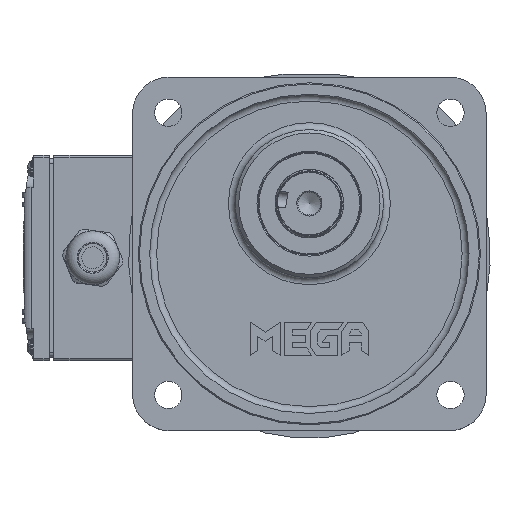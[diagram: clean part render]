
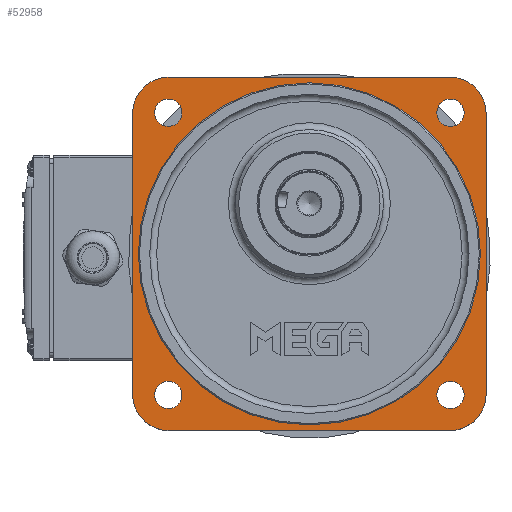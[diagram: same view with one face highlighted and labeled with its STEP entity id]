
A CAD part, top view. The second image highlights one B-rep face of the part: STEP entity #52958.
In plain terms, the highlighted planar face has unit normal (0, 0, 1).
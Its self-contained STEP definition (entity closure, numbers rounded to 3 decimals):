
#1264=FACE_BOUND('',#6904,.T.);
#1265=FACE_BOUND('',#6905,.T.);
#1266=FACE_BOUND('',#6906,.T.);
#1267=FACE_BOUND('',#6907,.T.);
#1268=FACE_BOUND('',#6908,.T.);
#2197=PLANE('',#57024);
#3628=FACE_OUTER_BOUND('',#6903,.T.);
#6903=EDGE_LOOP('',(#37367,#37368,#37369,#37370,#37371,#37372,#37373,#37374));
#6904=EDGE_LOOP('',(#37375));
#6905=EDGE_LOOP('',(#37376));
#6906=EDGE_LOOP('',(#37377));
#6907=EDGE_LOOP('',(#37378));
#6908=EDGE_LOOP('',(#37379));
#9982=CIRCLE('',#56792,16.);
#9990=CIRCLE('',#56804,6.);
#9992=CIRCLE('',#56807,6.);
#9994=CIRCLE('',#56810,6.);
#9995=CIRCLE('',#56812,6.);
#10069=CIRCLE('',#56982,16.);
#10091=CIRCLE('',#57019,16.);
#10092=CIRCLE('',#57022,16.);
#10093=CIRCLE('',#57025,75.);
#13733=LINE('',#81527,#16575);
#13745=LINE('',#81595,#16587);
#13895=LINE('',#82663,#16737);
#13898=LINE('',#82670,#16740);
#16575=VECTOR('',#65405,10.);
#16587=VECTOR('',#65455,10.);
#16737=VECTOR('',#66019,10.);
#16740=VECTOR('',#66028,10.);
#21223=VERTEX_POINT('',#81517);
#21224=VERTEX_POINT('',#81518);
#21227=VERTEX_POINT('',#81526);
#21242=VERTEX_POINT('',#81574);
#21244=VERTEX_POINT('',#81580);
#21246=VERTEX_POINT('',#81586);
#21247=VERTEX_POINT('',#81590);
#21248=VERTEX_POINT('',#81594);
#21383=VERTEX_POINT('',#82247);
#21396=VERTEX_POINT('',#82658);
#21397=VERTEX_POINT('',#82662);
#21398=VERTEX_POINT('',#82666);
#21399=VERTEX_POINT('',#82672);
#26774=EDGE_CURVE('',#21223,#21224,#9982,.T.);
#26778=EDGE_CURVE('',#21224,#21227,#13733,.T.);
#26794=EDGE_CURVE('',#21242,#21242,#9990,.T.);
#26797=EDGE_CURVE('',#21244,#21244,#9992,.T.);
#26800=EDGE_CURVE('',#21246,#21246,#9994,.T.);
#26802=EDGE_CURVE('',#21247,#21247,#9995,.T.);
#26804=EDGE_CURVE('',#21248,#21223,#13745,.T.);
#27034=EDGE_CURVE('',#21227,#21383,#10069,.T.);
#27069=EDGE_CURVE('',#21396,#21248,#10091,.T.);
#27071=EDGE_CURVE('',#21397,#21396,#13895,.T.);
#27073=EDGE_CURVE('',#21398,#21397,#10092,.T.);
#27075=EDGE_CURVE('',#21383,#21398,#13898,.T.);
#27076=EDGE_CURVE('',#21399,#21399,#10093,.T.);
#37367=ORIENTED_EDGE('',*,*,#26804,.F.);
#37368=ORIENTED_EDGE('',*,*,#27069,.F.);
#37369=ORIENTED_EDGE('',*,*,#27071,.F.);
#37370=ORIENTED_EDGE('',*,*,#27073,.F.);
#37371=ORIENTED_EDGE('',*,*,#27075,.F.);
#37372=ORIENTED_EDGE('',*,*,#27034,.F.);
#37373=ORIENTED_EDGE('',*,*,#26778,.F.);
#37374=ORIENTED_EDGE('',*,*,#26774,.F.);
#37375=ORIENTED_EDGE('',*,*,#26802,.F.);
#37376=ORIENTED_EDGE('',*,*,#26800,.F.);
#37377=ORIENTED_EDGE('',*,*,#26797,.F.);
#37378=ORIENTED_EDGE('',*,*,#26794,.F.);
#37379=ORIENTED_EDGE('',*,*,#27076,.F.);
#52958=ADVANCED_FACE('',(#3628,#1264,#1265,#1266,#1267,#1268),#2197,.F.);
#56792=AXIS2_PLACEMENT_3D('',#81519,#65397,#65398);
#56804=AXIS2_PLACEMENT_3D('',#81575,#65431,#65432);
#56807=AXIS2_PLACEMENT_3D('',#81581,#65438,#65439);
#56810=AXIS2_PLACEMENT_3D('',#81587,#65445,#65446);
#56812=AXIS2_PLACEMENT_3D('',#81591,#65450,#65451);
#56982=AXIS2_PLACEMENT_3D('',#82248,#65931,#65932);
#57019=AXIS2_PLACEMENT_3D('',#82659,#66014,#66015);
#57022=AXIS2_PLACEMENT_3D('',#82667,#66023,#66024);
#57024=AXIS2_PLACEMENT_3D('',#82671,#66029,#66030);
#57025=AXIS2_PLACEMENT_3D('',#82673,#66031,#66032);
#65397=DIRECTION('center_axis',(0.,0.,-1.));
#65398=DIRECTION('ref_axis',(1.,0.,0.));
#65405=DIRECTION('',(0.,-1.,0.));
#65431=DIRECTION('center_axis',(0.,0.,1.));
#65432=DIRECTION('ref_axis',(-1.,0.,0.));
#65438=DIRECTION('center_axis',(0.,0.,1.));
#65439=DIRECTION('ref_axis',(-1.,0.,0.));
#65445=DIRECTION('center_axis',(0.,0.,1.));
#65446=DIRECTION('ref_axis',(-1.,0.,0.));
#65450=DIRECTION('center_axis',(0.,0.,1.));
#65451=DIRECTION('ref_axis',(-1.,0.,0.));
#65455=DIRECTION('',(1.,0.,0.));
#65931=DIRECTION('center_axis',(0.,0.,-1.));
#65932=DIRECTION('ref_axis',(0.,-1.,0.));
#66014=DIRECTION('center_axis',(0.,0.,-1.));
#66015=DIRECTION('ref_axis',(0.,1.,0.));
#66019=DIRECTION('',(0.,1.,0.));
#66023=DIRECTION('center_axis',(0.,0.,-1.));
#66024=DIRECTION('ref_axis',(-1.,0.,0.));
#66028=DIRECTION('',(-1.,0.,0.));
#66029=DIRECTION('center_axis',(0.,0.,-1.));
#66030=DIRECTION('ref_axis',(-1.,0.,0.));
#66031=DIRECTION('center_axis',(0.,0.,1.));
#66032=DIRECTION('ref_axis',(-1.,0.,0.));
#81517=CARTESIAN_POINT('',(48.503,79.736,31.));
#81518=CARTESIAN_POINT('',(64.503,63.736,31.));
#81519=CARTESIAN_POINT('Origin',(48.503,63.736,31.));
#81526=CARTESIAN_POINT('',(64.503,-59.264,31.));
#81527=CARTESIAN_POINT('',(64.503,32.986,31.));
#81574=CARTESIAN_POINT('',(-68.869,64.108,31.));
#81575=CARTESIAN_POINT('Origin',(-74.869,64.108,31.));
#81580=CARTESIAN_POINT('',(54.875,64.108,31.));
#81581=CARTESIAN_POINT('Origin',(48.875,64.108,31.));
#81586=CARTESIAN_POINT('',(-68.869,-59.636,31.));
#81587=CARTESIAN_POINT('Origin',(-74.869,-59.636,31.));
#81590=CARTESIAN_POINT('',(54.875,-59.636,31.));
#81591=CARTESIAN_POINT('Origin',(48.875,-59.636,31.));
#81594=CARTESIAN_POINT('',(-74.497,79.736,31.));
#81595=CARTESIAN_POINT('',(-43.747,79.736,31.));
#82247=CARTESIAN_POINT('',(48.503,-75.264,31.));
#82248=CARTESIAN_POINT('Origin',(48.503,-59.264,31.));
#82658=CARTESIAN_POINT('',(-90.497,63.736,31.));
#82659=CARTESIAN_POINT('Origin',(-74.497,63.736,31.));
#82662=CARTESIAN_POINT('',(-90.497,-59.264,31.));
#82663=CARTESIAN_POINT('',(-90.497,-28.514,31.));
#82666=CARTESIAN_POINT('',(-74.497,-75.264,31.));
#82667=CARTESIAN_POINT('Origin',(-74.497,-59.264,31.));
#82670=CARTESIAN_POINT('',(17.753,-75.264,31.));
#82671=CARTESIAN_POINT('Origin',(-12.997,2.236,31.));
#82672=CARTESIAN_POINT('',(62.003,2.236,31.));
#82673=CARTESIAN_POINT('Origin',(-12.997,2.236,31.));
